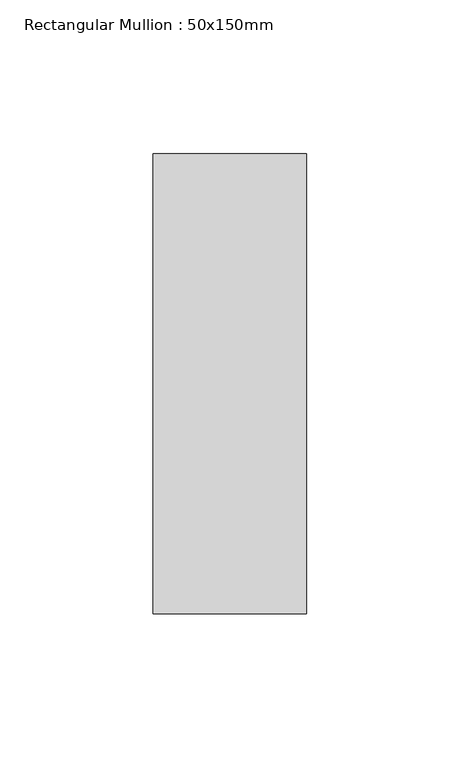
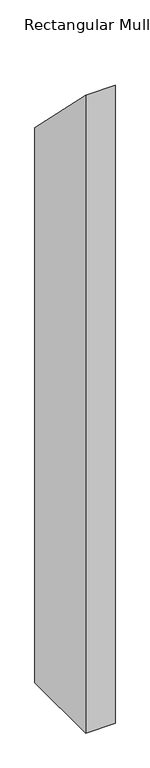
"""IFC4 building model written with IfcOpenShell, lengths in millimetres: member geometry, Rectangular Mullion : 50x150mm."""

from ifc_helpers import new_model, si_unit, frame, origin, place, context, project, spatial, polyline, outline, extrude, source, transform, mapped, element, save


def rectangular_mullion_50x150mm_2309bebb(model_context):
    return source(origin(), model_context, "Body", "SweptSolid", [
        extrude(outline(polyline([(-75.0, 75.0), (75.0, -75.0), (75.0, -1075.0000001), (-75.0, -1075.0000001), (-75.0, 75.0)])), frame((-50.0, 0.0, 0.0), z_axis=(1.0, 0.0, 0.0), x_axis=(0.0, 1.0, 0.0)), (0.0, 0.0, 1.0), 50.0),
    ])


if __name__ == "__main__":
    model = new_model("IFC4")
    model_context = context("Model", 3, world=origin())
    ifc_project = project(units=[si_unit("LENGTHUNIT", "METRE", prefix="MILLI")], contexts=[model_context])
    site = spatial("IfcSite", under=ifc_project)
    building = spatial("IfcBuilding", under=site)
    placement = place(None, origin())
    rectangular_mullion_50x150mm_shape = rectangular_mullion_50x150mm_2309bebb(model_context)
    element("IfcMember", 1, ObjectType="Rectangular Mullion : 50x150mm", at=placement, inside=building, context=model_context, shape_type="MappedRepresentation", body=[
        mapped(rectangular_mullion_50x150mm_shape, transform((0.0, 0.0, 0.0), x_axis=(1.0, 0.0, 0.0), y_axis=(0.0, 1.0, 0.0), z_axis=(0.0, 0.0, 1.0))),
    ])
    save(model, "model.ifc")
